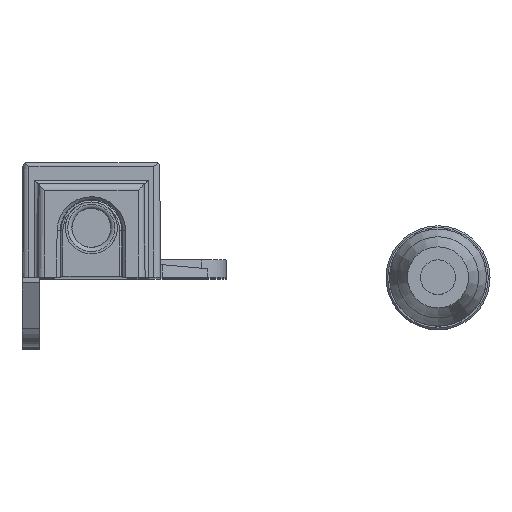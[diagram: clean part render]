
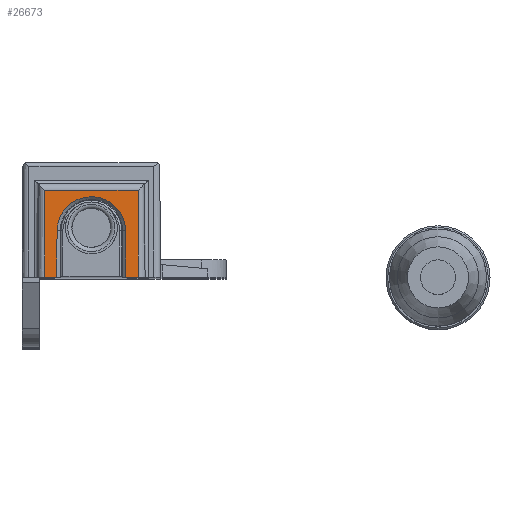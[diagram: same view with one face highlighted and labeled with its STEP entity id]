
A CAD part, top view. The second image highlights one B-rep face of the part: STEP entity #26673.
In plain terms, the highlighted planar face has unit normal (0, 0.009, 1).
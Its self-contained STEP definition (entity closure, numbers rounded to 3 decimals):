
#23722=CARTESIAN_POINT('',(6.75,0.0,3.5));
#23723=VERTEX_POINT('',#23722);
#23731=CARTESIAN_POINT('',(5.,0.0,3.5));
#23732=VERTEX_POINT('',#23731);
#23733=CARTESIAN_POINT('',(5.,0.0,3.5));
#23734=DIRECTION('',(1.0,0.0,0.0));
#23735=VECTOR('',#23734,1.75);
#23736=LINE('',#23733,#23735);
#23737=EDGE_CURVE('',#23732,#23723,#23736,.T.);
#24189=CARTESIAN_POINT('',(-5.,0.0,3.5));
#24190=VERTEX_POINT('',#24189);
#24197=CARTESIAN_POINT('',(-6.75,0.0,3.5));
#24198=VERTEX_POINT('',#24197);
#24199=CARTESIAN_POINT('',(-6.75,0.0,3.5));
#24200=DIRECTION('',(1.0,0.0,0.0));
#24201=VECTOR('',#24200,1.75);
#24202=LINE('',#24199,#24201);
#24203=EDGE_CURVE('',#24198,#24190,#24202,.T.);
#26418=CARTESIAN_POINT('',(-4.942,6.7,3.442));
#26419=VERTEX_POINT('',#26418);
#26420=CARTESIAN_POINT('',(4.942,6.7,3.442));
#26421=VERTEX_POINT('',#26420);
#26422=CARTESIAN_POINT('',(0.0,6.657,3.442));
#26423=DIRECTION('',(0.,-0.009,-1.));
#26424=DIRECTION('',(0.,-1.,0.009));
#26425=AXIS2_PLACEMENT_3D('',#26422,#26423,#26424);
#26426=ELLIPSE('',#26425,4.942,4.942);
#26427=EDGE_CURVE('',#26419,#26421,#26426,.T.);
#26629=CARTESIAN_POINT('',(6.75,0.0,3.5));
#26630=DIRECTION('',(0.0,0.009,1.));
#26631=DIRECTION('',(1.0,0.0,0.0));
#26632=AXIS2_PLACEMENT_3D('',#26629,#26630,#26631);
#26633=PLANE('',#26632);
#26634=ORIENTED_EDGE('',*,*,#26427,.T.);
#26635=CARTESIAN_POINT('',(4.942,6.7,3.442));
#26636=DIRECTION('',(0.009,-1.,0.009));
#26637=VECTOR('',#26636,6.701);
#26638=LINE('',#26635,#26637);
#26639=EDGE_CURVE('',#26421,#23732,#26638,.T.);
#26640=ORIENTED_EDGE('',*,*,#26639,.T.);
#26641=ORIENTED_EDGE('',*,*,#23737,.T.);
#26642=CARTESIAN_POINT('',(6.75,12.509,3.391));
#26643=VERTEX_POINT('',#26642);
#26644=CARTESIAN_POINT('',(6.75,0.0,3.5));
#26645=DIRECTION('',(0.0,1.,-0.009));
#26646=VECTOR('',#26645,12.509);
#26647=LINE('',#26644,#26646);
#26648=EDGE_CURVE('',#23723,#26643,#26647,.T.);
#26649=ORIENTED_EDGE('',*,*,#26648,.T.);
#26650=CARTESIAN_POINT('',(-6.75,12.509,3.391));
#26651=VERTEX_POINT('',#26650);
#26652=CARTESIAN_POINT('',(-6.75,12.509,3.391));
#26653=DIRECTION('',(1.0,0.0,0.0));
#26654=VECTOR('',#26653,13.5);
#26655=LINE('',#26652,#26654);
#26656=EDGE_CURVE('',#26651,#26643,#26655,.T.);
#26657=ORIENTED_EDGE('',*,*,#26656,.F.);
#26658=CARTESIAN_POINT('',(-6.75,0.0,3.5));
#26659=DIRECTION('',(0.0,1.,-0.009));
#26660=VECTOR('',#26659,12.509);
#26661=LINE('',#26658,#26660);
#26662=EDGE_CURVE('',#24198,#26651,#26661,.T.);
#26663=ORIENTED_EDGE('',*,*,#26662,.F.);
#26664=ORIENTED_EDGE('',*,*,#24203,.T.);
#26665=CARTESIAN_POINT('',(-5.,0.,3.5));
#26666=DIRECTION('',(0.009,1.,-0.009));
#26667=VECTOR('',#26666,6.701);
#26668=LINE('',#26665,#26667);
#26669=EDGE_CURVE('',#24190,#26419,#26668,.T.);
#26670=ORIENTED_EDGE('',*,*,#26669,.T.);
#26671=EDGE_LOOP('',(#26634,#26640,#26641,#26649,#26657,#26663,#26664,#26670));
#26672=FACE_OUTER_BOUND('',#26671,.T.);
#26673=ADVANCED_FACE('',(#26672),#26633,.T.);
